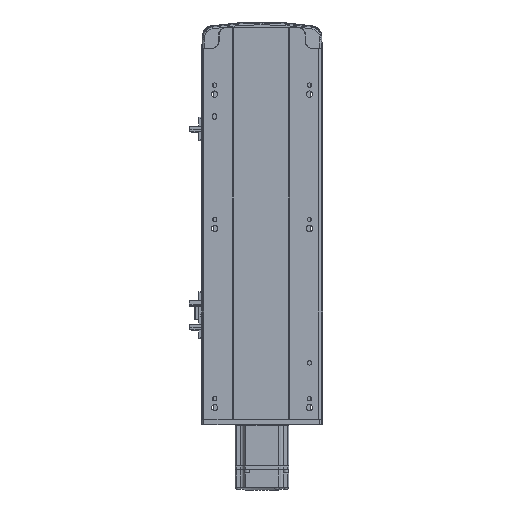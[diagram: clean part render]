
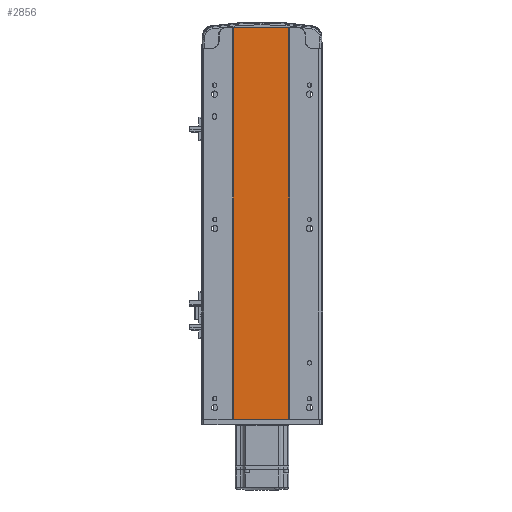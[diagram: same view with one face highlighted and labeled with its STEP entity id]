
A CAD part, front view. The second image highlights one B-rep face of the part: STEP entity #2856.
In plain terms, the highlighted planar face has unit normal (0, -1, 0).
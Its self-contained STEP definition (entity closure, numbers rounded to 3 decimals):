
#272 = DIRECTION ( 'NONE',  ( 1., 0., 0. ) ) ;
#994 = AXIS2_PLACEMENT_3D ( 'NONE', #20437, #16080, #2532 ) ;
#1630 = CARTESIAN_POINT ( 'NONE',  ( -32., 1., 437. ) ) ;
#2532 = DIRECTION ( 'NONE',  ( -1., 0., 0. ) ) ;
#2856 = ADVANCED_FACE ( 'NONE', ( #54196 ), #54743, .F. ) ;
#4419 = CARTESIAN_POINT ( 'NONE',  ( 30., 1., 437. ) ) ;
#4972 = DIRECTION ( 'NONE',  ( 0., 0., -1. ) ) ;
#5342 = EDGE_CURVE ( 'NONE', #19266, #56559, #6287, .T. ) ;
#6287 = LINE ( 'NONE', #13095, #16523 ) ;
#7476 = LINE ( 'NONE', #9871, #23801 ) ;
#9871 = CARTESIAN_POINT ( 'NONE',  ( -32., 1., 437. ) ) ;
#13095 = CARTESIAN_POINT ( 'NONE',  ( -32., 1., 437. ) ) ;
#14260 = CARTESIAN_POINT ( 'NONE',  ( 30., 1., 0. ) ) ;
#14471 = DIRECTION ( 'NONE',  ( 1., 0., 0. ) ) ;
#16080 = DIRECTION ( 'NONE',  ( 0., 1., 0. ) ) ;
#16523 = VECTOR ( 'NONE', #52682, 1000. ) ;
#19266 = VERTEX_POINT ( 'NONE', #1630 ) ;
#19491 = VECTOR ( 'NONE', #4972, 1000. ) ;
#20437 = CARTESIAN_POINT ( 'NONE',  ( -32., 1., 437. ) ) ;
#22344 = LINE ( 'NONE', #30936, #36052 ) ;
#23718 = EDGE_LOOP ( 'NONE', ( #50670, #52101, #41379, #50178 ) ) ;
#23801 = VECTOR ( 'NONE', #14471, 1000. ) ;
#27057 = VERTEX_POINT ( 'NONE', #4419 ) ;
#27568 = EDGE_CURVE ( 'NONE', #19266, #27057, #7476, .T. ) ;
#30936 = CARTESIAN_POINT ( 'NONE',  ( -32., 1., 0. ) ) ;
#36052 = VECTOR ( 'NONE', #272, 1000. ) ;
#38715 = VERTEX_POINT ( 'NONE', #14260 ) ;
#41379 = ORIENTED_EDGE ( 'NONE', *, *, #27568, .F. ) ;
#43360 = LINE ( 'NONE', #43797, #19491 ) ;
#43797 = CARTESIAN_POINT ( 'NONE',  ( 30., 1., 437. ) ) ;
#44307 = CARTESIAN_POINT ( 'NONE',  ( -32., 1., 0. ) ) ;
#49130 = EDGE_CURVE ( 'NONE', #56559, #38715, #22344, .T. ) ;
#50178 = ORIENTED_EDGE ( 'NONE', *, *, #5342, .T. ) ;
#50670 = ORIENTED_EDGE ( 'NONE', *, *, #49130, .T. ) ;
#52034 = EDGE_CURVE ( 'NONE', #27057, #38715, #43360, .T. ) ;
#52101 = ORIENTED_EDGE ( 'NONE', *, *, #52034, .F. ) ;
#52682 = DIRECTION ( 'NONE',  ( 0., 0., -1. ) ) ;
#54196 = FACE_OUTER_BOUND ( 'NONE', #23718, .T. ) ;
#54743 = PLANE ( 'NONE',  #994 ) ;
#56559 = VERTEX_POINT ( 'NONE', #44307 ) ;
